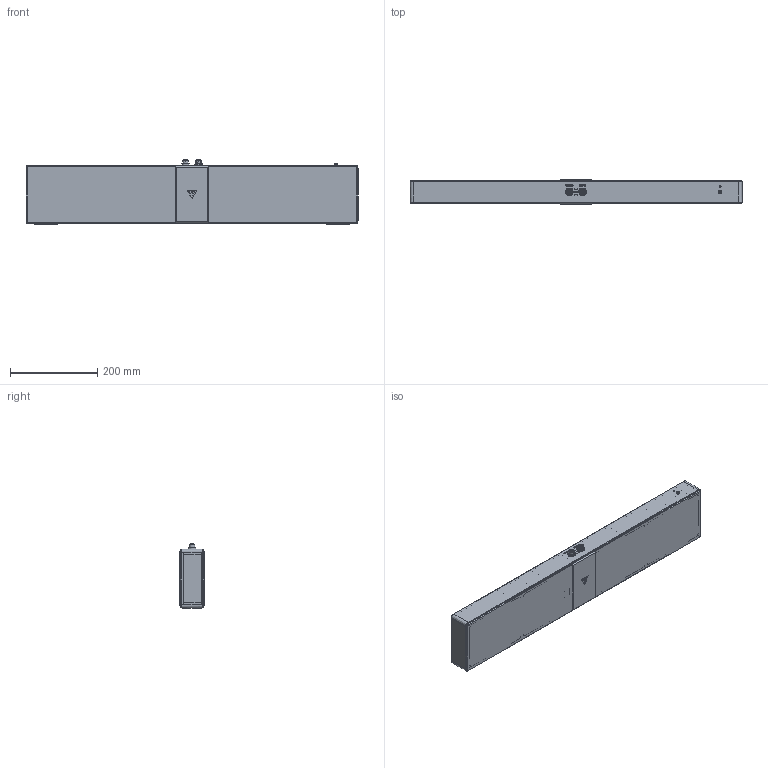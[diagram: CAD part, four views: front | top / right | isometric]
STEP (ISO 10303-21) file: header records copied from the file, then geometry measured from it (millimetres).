
FILE_DESCRIPTION (( 'STEP AP214' ), '1' );
FILE_NAME ('RVC-P32200.STEP', '2023-05-25T08:35:55', ( '' ), ( '' ), 'SwSTEP 2.0', 'SolidWorks 2021', '' );
FILE_SCHEMA (( 'AUTOMOTIVE_DESIGN' ));
Length unit declared in the file: millimetre
Products named in the file (12): 笢換-M12A-12pin; RVC-P32200; RVC-IP-09-logo-V3.0; RVC-P32200-02-階裔-V3.0; 笢換-M12X-8pin; ﾍｭｵ貳ｬ[3｡ﾁ8｡ﾁ0.5]; 萇埭蛌諉啣-2; 滅誘噩え(D34); 内六角圆柱头铜螺钉[M3×6]_M3×5; 滅誘噩え(D29); 内六角圆柱头螺钉[M3×10]_M3×5; RVC-P32200-01-磁珨笢遺-V3.1
Assembly tree (23 placements, depth 2):
  RVC-P32200
    RVC-P32200-01-磁珨笢遺-V3.1
    笢換-M12A-12pin
    笢換-M12X-8pin
    萇埭蛌諉啣-2
    RVC-P32200-02-階裔-V3.0
    RVC-IP-09-logo-V3.0
    滅誘噩え(D34)  x2
    滅誘噩え(D29)
    内六角圆柱头铜螺钉[M3×6]_M3×5
    ﾍｭｵ貳ｬ[3｡ﾁ8｡ﾁ0.5]
    内六角圆柱头螺钉[M3×10]_M3×5  x12
Bounding box: 760 x 57 x 146.6 mm (x, y, z)
Volume: 796564 mm3; surface area: 636202.6 mm2
Topology: 26 solids, 26 shells, 1958 faces, 4895 edges, 3108 vertices
Faces by surface type: plane 895, cylinder 684, cone 177, torus 104, bspline 98
Entity records: 65240 total; most frequent: CARTESIAN_POINT 18823, DIRECTION 8768, ORIENTED_EDGE 8642, EDGE_CURVE 4321, AXIS2_PLACEMENT_3D 3099, VERTEX_POINT 2810, VECTOR 2570, LINE 2570
